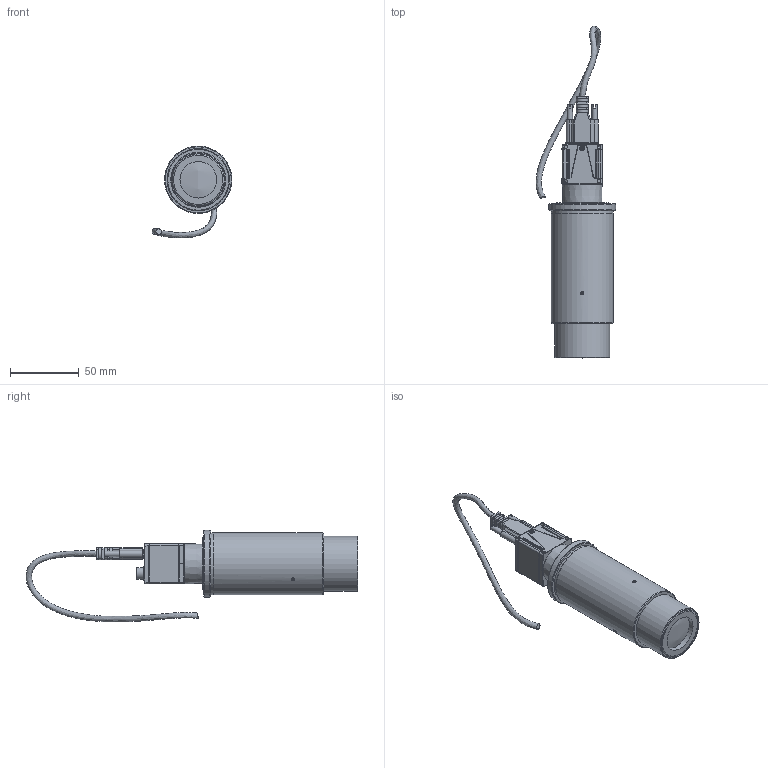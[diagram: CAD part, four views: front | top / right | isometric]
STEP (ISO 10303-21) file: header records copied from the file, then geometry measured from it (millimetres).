
FILE_DESCRIPTION(/* description */ (''),/* implementation_level */ '2;1');
FILE_NAME(/* name */ '\\SERVEUR-09\Entreprise\Bureau-Technique\Produits Web\videos\optiques\MA735-002-012.stp',/* time_stamp */ '2018-10-01T08:36:07+02:00',/* author */ ('ms'),/* organization */ ('Marcel Aubert'),/* preprocessor_version */ 'ST-DEVELOPER v17',/* originating_system */ 'Autodesk Inventor 2019',/* authorisation */ '');
FILE_SCHEMA (('AUTOMOTIVE_DESIGN { 1 0 10303 214 3 1 1 }'));
Length unit declared in the file: millimetre
Products named in the file (1): Pièce1
Bounding box: 58.09 x 241.08 x 66.77 mm (x, y, z)
Volume: 203322.7 mm3; surface area: 38825.9 mm2
Topology: 1 solids, 11 shells, 911 faces, 2467 edges, 1619 vertices
Faces by surface type: plane 569, cylinder 225, cone 51, bspline 35, torus 28, sphere 3
Full cylindrical faces by diameter (mm): 0.4 x8, 1.6 x2, 2.459 x6, 2.5 x4, 3 x2, 3.2 x1, 3.9 x2, 6.8 x1, 8.5 x1, 8.6 x3, 10 x1, 10.6 x1, 22.5 x1, 24.8 x1, 26 x1, 26.6 x1, 37.6 x1, 37.7 x3, 39.8 x1, 40 x3, 40.3 x1, 44.7 x1, 45.3 x1, 49 x1
Entity records: 43588 total; most frequent: CARTESIAN_POINT 19334, ORIENTED_EDGE 4920, DIRECTION 4782, EDGE_CURVE 2460, LINE 1636, VECTOR 1636, VERTEX_POINT 1619, AXIS2_PLACEMENT_3D 1573
